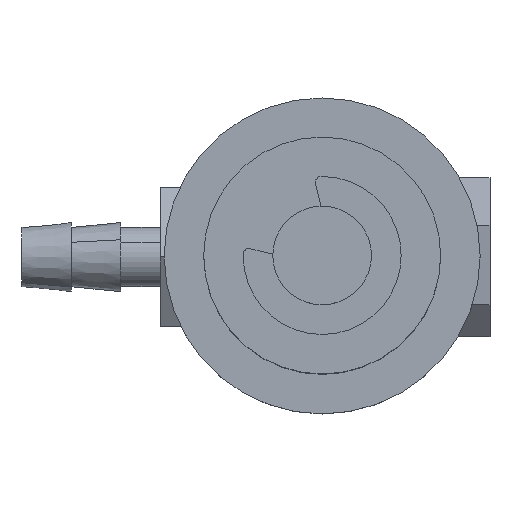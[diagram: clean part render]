
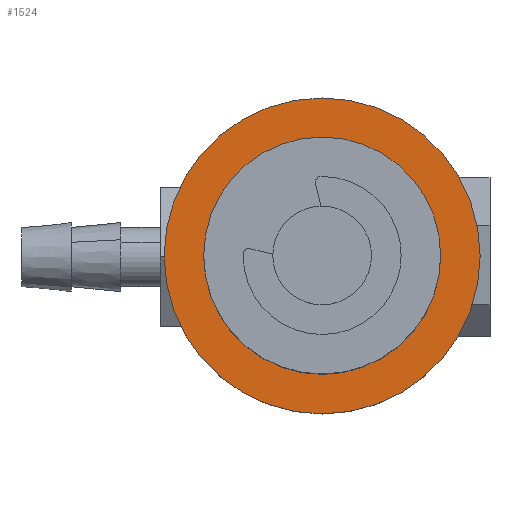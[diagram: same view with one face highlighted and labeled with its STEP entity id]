
A CAD part, top view. The second image highlights one B-rep face of the part: STEP entity #1524.
In plain terms, the highlighted planar face has unit normal (0, 0, 1).
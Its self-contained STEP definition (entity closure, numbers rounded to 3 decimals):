
#382 = CIRCLE ( 'NONE', #10058, 6. ) ;
#714 = DIRECTION ( 'NONE',  ( 0., 0., -1. ) ) ;
#940 = AXIS2_PLACEMENT_3D ( 'NONE', #6496, #1640, #7339 ) ;
#987 = CARTESIAN_POINT ( 'NONE',  ( 1.417, -6.865, 14.25 ) ) ;
#1080 = DIRECTION ( 'NONE',  ( 1., 0., 0. ) ) ;
#1192 = VERTEX_POINT ( 'NONE', #10123 ) ;
#1254 = CARTESIAN_POINT ( 'NONE',  ( -6.583, -0.865, 14.25 ) ) ;
#1383 = DIRECTION ( 'NONE',  ( 0., 0., -1. ) ) ;
#1504 = EDGE_LOOP ( 'NONE', ( #5303, #5690 ) ) ;
#1524 = ADVANCED_FACE ( 'NONE', ( #5407, #7354 ), #5966, .T. ) ;
#1640 = DIRECTION ( 'NONE',  ( 0., 0., 1. ) ) ;
#1916 = CARTESIAN_POINT ( 'NONE',  ( -6.679, -8.961, 14.25 ) ) ;
#2865 = EDGE_CURVE ( 'NONE', #3216, #1192, #6503, .T. ) ;
#3059 = EDGE_CURVE ( 'NONE', #8306, #5776, #10502, .T. ) ;
#3216 = VERTEX_POINT ( 'NONE', #987 ) ;
#3232 = ORIENTED_EDGE ( 'NONE', *, *, #6150, .T. ) ;
#3576 = DIRECTION ( 'NONE',  ( 0., 0., 1. ) ) ;
#3854 = AXIS2_PLACEMENT_3D ( 'NONE', #6239, #1383, #7074 ) ;
#3965 = AXIS2_PLACEMENT_3D ( 'NONE', #1916, #6754, #1080 ) ;
#4397 = CIRCLE ( 'NONE', #5660, 8. ) ;
#5303 = ORIENTED_EDGE ( 'NONE', *, *, #5333, .T. ) ;
#5333 = EDGE_CURVE ( 'NONE', #1192, #3216, #382, .T. ) ;
#5407 = FACE_BOUND ( 'NONE', #1504, .T. ) ;
#5579 = CARTESIAN_POINT ( 'NONE',  ( 1.417, -0.865, 14.25 ) ) ;
#5660 = AXIS2_PLACEMENT_3D ( 'NONE', #8472, #3576, #9293 ) ;
#5690 = ORIENTED_EDGE ( 'NONE', *, *, #2865, .T. ) ;
#5776 = VERTEX_POINT ( 'NONE', #7217 ) ;
#5966 = PLANE ( 'NONE',  #3965 ) ;
#6150 = EDGE_CURVE ( 'NONE', #5776, #8306, #4397, .T. ) ;
#6239 = CARTESIAN_POINT ( 'NONE',  ( 1.417, -0.865, 14.25 ) ) ;
#6396 = DIRECTION ( 'NONE',  ( 0., 1., 0. ) ) ;
#6496 = CARTESIAN_POINT ( 'NONE',  ( 1.417, -0.865, 14.25 ) ) ;
#6503 = CIRCLE ( 'NONE', #3854, 6. ) ;
#6754 = DIRECTION ( 'NONE',  ( 0., 0., 1. ) ) ;
#7074 = DIRECTION ( 'NONE',  ( 0., 1., 0. ) ) ;
#7217 = CARTESIAN_POINT ( 'NONE',  ( 9.417, -0.865, 14.25 ) ) ;
#7339 = DIRECTION ( 'NONE',  ( -1., 0., 0. ) ) ;
#7354 = FACE_OUTER_BOUND ( 'NONE', #9323, .T. ) ;
#7819 = ORIENTED_EDGE ( 'NONE', *, *, #3059, .T. ) ;
#8306 = VERTEX_POINT ( 'NONE', #1254 ) ;
#8472 = CARTESIAN_POINT ( 'NONE',  ( 1.417, -0.865, 14.25 ) ) ;
#9293 = DIRECTION ( 'NONE',  ( -1., 0., 0. ) ) ;
#9323 = EDGE_LOOP ( 'NONE', ( #7819, #3232 ) ) ;
#10058 = AXIS2_PLACEMENT_3D ( 'NONE', #5579, #714, #6396 ) ;
#10123 = CARTESIAN_POINT ( 'NONE',  ( 1.417, 5.135, 14.25 ) ) ;
#10502 = CIRCLE ( 'NONE', #940, 8. ) ;
